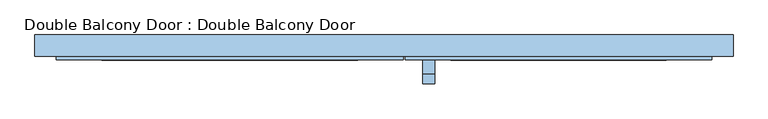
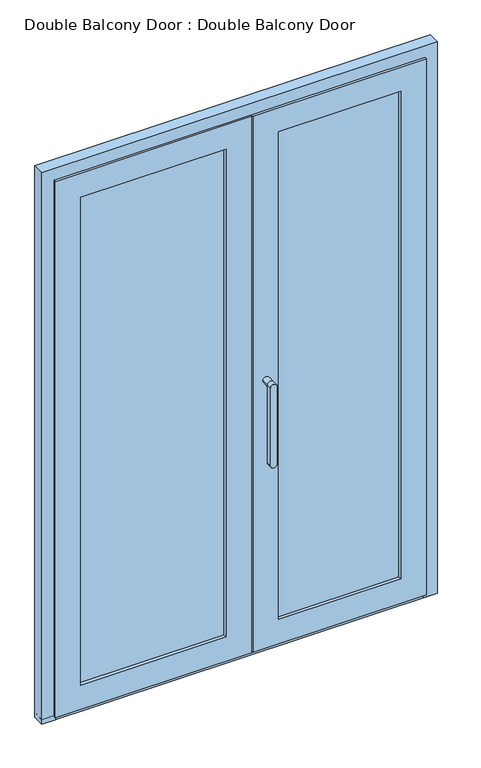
"""IFC4 building model written with IfcOpenShell, lengths in millimetres: window geometry, Double Balcony Door : Double Balcony Door."""

from ifc_helpers import new_model, si_unit, point, frame, frame_2d, origin, place, context, project, spatial, polyline, circle_curve, ellipse_curve, trimmed, segment, composite_curve, outline, extrude, faceted_brep, source, transform, mapped, element, save
from ifc_brep_helpers import plane_surface, cylinder_surface, advanced_brep


def double_balcony_door_double_balcony_door_f30f3416(model_context):
    return source(origin(), model_context, "Body", "SolidModel", [
        extrude(outline(polyline([(-613.6965665, 12.499206), (-40.3034335, 12.499206), (-40.3034335, -11.5007646), (-613.6965665, -11.5007646), (-613.6965665, 12.499206)])), frame((0.0, 0.0, 105.3034335), z_axis=(0.0, 0.0, 1.0), x_axis=(1.0, 0.0, 0.0)), (0.0, 0.0, 1.0), 1958.3931331),
        extrude(outline(polyline([(51.5004821, 19.9999722), (51.5004821, -16.9999382), (22.9999853, -16.9999382), (22.9999853, 19.9999722), (12.5002691, 19.9999722), (12.5002691, 28.0000008), (73.5004905, 28.0000008), (73.5004905, 19.9999722), (51.5004821, 19.9999722)])), frame((0.0, 0.0, 57.5000095), z_axis=(0.0, 0.0, 1.0), x_axis=(1.0, 0.0, 0.0)), (0.0, 0.0, 1.0), 2053.9999809),
        advanced_brep(
        [(-598.7001046, 22.4999732, 2048.7001046), (-604.2001016, 27.9999669, 2054.2001016), (-49.7998984, 27.9999669, 2054.2001016), (-55.2998954, 22.4999732, 2048.7001046), (-49.7998984, 27.9999669, 114.7998984), (-55.2998954, 22.4999732, 120.2998954), (7.4993978, 27.9999669, 57.5006022), (-661.4993978, 27.9999669, 57.5006022), (-661.4993978, 27.9999669, 2111.4993978), (7.4993978, 27.9999669, 2111.4993978), (-604.2001016, 27.9999669, 114.7998984), (-598.7001046, 22.4999732, 120.2998954), (-55.2999014, 12.499206, 2048.7000986), (-55.2999014, 12.499206, 120.2999014), (-598.7000986, 12.499206, 2048.7000986), (-598.7000986, 12.499206, 120.2999014), (-40.3034335, 12.499206, 2063.6965665), (-613.6965665, 12.499206, 2063.6965665), (-613.6965665, 12.499206, 105.3034335), (-40.3034335, 12.499206, 105.3034335), (-40.3034335, -11.5007646, 2063.6965665), (-40.3034335, -11.5007646, 105.3034335), (-613.6965665, -11.5007646, 105.3034335), (-613.6965665, -11.5007646, 2063.6965665), (-55.2999262, -11.5007646, 2048.7000738), (-598.7000738, -11.5007646, 2048.7000738), (-598.7000738, -11.5007646, 120.2999262), (-55.2999262, -11.5007646, 120.2999262), (-598.7000738, -24.9999436, 2048.7000738), (-55.2999262, -24.9999436, 2048.7000738), (-55.2999262, -24.9999436, 120.2999262), (-598.7000738, -24.9999436, 120.2999262), (40.4999905, -24.9999436, 2144.4999905), (-694.4999905, -24.9999436, 2144.4999905), (-694.4999905, -24.9999436, 24.5000095), (40.4999905, -24.9999436, 24.5000095), (40.4999905, -17.0, 2144.4999905), (40.4999905, -17.0, 24.5000095), (-694.4999905, -17.0, 24.5000095), (-694.4999905, -17.0, 2144.4999905), (22.9999853, -17.0, 2126.9999853), (-676.9999853, -17.0, 2126.9999853), (-676.9999853, -17.0, 42.0000147), (22.9999853, -17.0, 42.0000147), (22.9999853, 20.0000618, 2126.9999853), (22.9999853, 20.0000618, 42.0000147), (-676.9999853, 20.0000618, 42.0000147), (-676.9999853, 20.0000618, 2126.9999853), (7.4993978, 20.0000618, 2111.4993978), (-661.4993978, 20.0000618, 2111.4993978), (-661.4993978, 20.0000618, 57.5006022), (7.4993978, 20.0000618, 57.5006022)],
        [
            (0, 1, ellipse_curve(frame((-604.2001016, 22.4999699, 2054.2001016), z_axis=(0.7071067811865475, 0.0, 0.7071067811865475), x_axis=(-0.7071067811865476, 0.0, 0.7071067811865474)), 7.7781703, 5.499997)),
            (1, 2),
            (2, 3, ellipse_curve(frame((-49.7998984, 22.4999699, 2054.2001016), z_axis=(-0.7071067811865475, 0.0, 0.7071067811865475), x_axis=(-0.7071067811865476, 0.0, -0.7071067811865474)), 7.7781703, 5.499997)),
            (3, 0),
            (2, 4),
            (4, 5, ellipse_curve(frame((-49.7998984, 22.4999699, 114.7998984), z_axis=(0.7071067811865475, 0.0, 0.7071067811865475), x_axis=(-0.7071067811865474, 0.0, 0.7071067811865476)), 7.7781703, 5.499997)),
            (5, 3),
            (6, 7),
            (7, 8),
            (8, 9),
            (9, 6),
            (1, 10),
            (10, 4),
            (10, 11, ellipse_curve(frame((-604.2001016, 22.4999699, 114.7998984), z_axis=(0.7071067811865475, 0.0, -0.7071067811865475), x_axis=(0.7071067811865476, 0.0, 0.7071067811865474)), 7.7781703, 5.499997)),
            (11, 5),
            (12, 3),
            (5, 13),
            (13, 12),
            (14, 0),
            (12, 14),
            (11, 15),
            (15, 13),
            (16, 17),
            (17, 18),
            (18, 19),
            (19, 16),
            (15, 14),
            (20, 16),
            (19, 21),
            (21, 20),
            (18, 22),
            (22, 21),
            (22, 23),
            (23, 20),
            (24, 25),
            (25, 26),
            (26, 27),
            (27, 24),
            (28, 25),
            (24, 29),
            (29, 28),
            (27, 30),
            (30, 29),
            (26, 31),
            (31, 30),
            (32, 33),
            (33, 34),
            (34, 35),
            (35, 32),
            (31, 28),
            (36, 32),
            (35, 37),
            (37, 36),
            (34, 38),
            (38, 37),
            (38, 39),
            (39, 36),
            (40, 41),
            (41, 42),
            (42, 43),
            (43, 40),
            (44, 40),
            (43, 45),
            (45, 44),
            (42, 46),
            (46, 45),
            (46, 47),
            (47, 44),
            (48, 49),
            (49, 50),
            (50, 51),
            (51, 48),
            (9, 48),
            (51, 6),
            (50, 7),
            (0, 11),
            (17, 23),
            (33, 39),
            (41, 47),
            (49, 8),
        ],
        [
            cylinder_surface(frame((-740.0, 22.4999699, 2054.2001016), z_axis=(-1.0000000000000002, 0.0, 0.0), x_axis=(0.0, 5.945878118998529e-07, -0.9999999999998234)), 5.499997),
            cylinder_surface(frame((-49.7998984, 22.4999699, 2190.0), z_axis=(0.0, 0.0, 1.0000000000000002), x_axis=(-0.9999999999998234, 5.945878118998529e-07, 0.0)), 5.499997),
            plane_surface(frame((-661.4993978, 27.9999669, 2111.4993978), z_axis=(0.0, 1.0, 0.0), x_axis=(1.0, 0.0, 0.0))),
            cylinder_surface(frame((86.0, 22.4999699, 114.7998984), z_axis=(1.0000000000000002, 0.0, 0.0), x_axis=(0.0, 5.945878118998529e-07, 0.9999999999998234)), 5.499997),
            plane_surface(frame((-55.2999014, 22.4999732, 2048.7000986), z_axis=(-1.0, 0.0, 0.0), x_axis=(0.0, 0.0, -1.0))),
            plane_surface(frame((-598.7000986, 22.4999732, 2048.7000986), z_axis=(0.0, 0.0, -1.0), x_axis=(1.0, 0.0, 0.0))),
            plane_surface(frame((-55.2999014, 22.4999732, 120.2999014), z_axis=(0.0, 0.0, 1.0), x_axis=(-1.0, 0.0, 0.0))),
            plane_surface(frame((-598.7000986, 12.499206, 2048.7000986), z_axis=(0.0, -1.0, 0.0), x_axis=(1.0, 0.0, 0.0))),
            plane_surface(frame((-40.3034335, 12.499206, 2063.6965665), z_axis=(-1.0, 0.0, 0.0), x_axis=(0.0, 0.0, -1.0))),
            plane_surface(frame((-40.3034335, 12.499206, 105.3034335), z_axis=(0.0, 0.0, 1.0), x_axis=(-1.0, 0.0, 0.0))),
            plane_surface(frame((-613.6965665, -11.5007646, 2063.6965665), z_axis=(0.0, 1.0, 0.0), x_axis=(1.0, 0.0, 0.0))),
            plane_surface(frame((-598.7000738, -11.5007646, 2048.7000738), z_axis=(0.0, 0.0, -1.0), x_axis=(1.0, 0.0, 0.0))),
            plane_surface(frame((-55.2999262, -11.5007646, 2048.7000738), z_axis=(-1.0, 0.0, 0.0), x_axis=(0.0, 0.0, -1.0))),
            plane_surface(frame((-55.2999262, -11.5007646, 120.2999262), z_axis=(0.0, 0.0, 1.0), x_axis=(-1.0, 0.0, 0.0))),
            plane_surface(frame((-598.7000738, -24.9999436, 2048.7000738), z_axis=(0.0, -1.0, 0.0), x_axis=(1.0, 0.0, 0.0))),
            plane_surface(frame((40.4999905, -24.9999436, 2144.4999905), z_axis=(1.0, 0.0, 0.0), x_axis=(0.0, 0.0, -1.0))),
            plane_surface(frame((40.4999905, -24.9999436, 24.5000095), z_axis=(0.0, 0.0, -1.0), x_axis=(-1.0, 0.0, 0.0))),
            plane_surface(frame((-694.4999905, -17.0, 2144.4999905), z_axis=(0.0, 1.0, 0.0), x_axis=(1.0, 0.0, 0.0))),
            plane_surface(frame((22.9999853, -17.0, 2126.9999853), z_axis=(1.0, 0.0, 0.0), x_axis=(0.0, 0.0, -1.0))),
            plane_surface(frame((22.9999853, -17.0, 42.0000147), z_axis=(0.0, 0.0, -1.0), x_axis=(-1.0, 0.0, 0.0))),
            plane_surface(frame((-676.9999853, 20.0000618, 2126.9999853), z_axis=(0.0, 1.0, 0.0), x_axis=(1.0, 0.0, 0.0))),
            plane_surface(frame((7.4993978, 20.0000618, 2111.4993978), z_axis=(1.0, 0.0, 0.0), x_axis=(0.0, 0.0, -1.0))),
            plane_surface(frame((7.4993978, 20.0000618, 57.5006022), z_axis=(0.0, 0.0, -1.0), x_axis=(-1.0, 0.0, 0.0))),
            cylinder_surface(frame((-604.2001016, 22.4999699, -21.0), z_axis=(0.0, 0.0, -1.0000000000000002), x_axis=(0.9999999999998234, 5.945878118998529e-07, 0.0)), 5.499997),
            plane_surface(frame((-598.7000986, 22.4999732, 120.2999014), z_axis=(1.0, 0.0, 0.0), x_axis=(0.0, 0.0, 1.0))),
            plane_surface(frame((-613.6965665, 12.499206, 105.3034335), z_axis=(1.0, 0.0, 0.0), x_axis=(0.0, 0.0, 1.0))),
            plane_surface(frame((-598.7000738, -11.5007646, 120.2999262), z_axis=(1.0, 0.0, 0.0), x_axis=(0.0, 0.0, 1.0))),
            plane_surface(frame((-694.4999905, -24.9999436, 24.5000095), z_axis=(-1.0, 0.0, 0.0), x_axis=(0.0, 0.0, 1.0))),
            plane_surface(frame((-676.9999853, -17.0, 42.0000147), z_axis=(-1.0, 0.0, 0.0), x_axis=(0.0, 0.0, 1.0))),
            plane_surface(frame((-661.4993978, 20.0000618, 57.5006022), z_axis=(-1.0, 0.0, 0.0), x_axis=(0.0, 0.0, 1.0))),
            plane_surface(frame((-613.6965665, 12.499206, 2063.6965665), z_axis=(0.0, 0.0, -1.0), x_axis=(1.0, 0.0, 0.0))),
            plane_surface(frame((-694.4999905, -24.9999436, 2144.4999905), z_axis=(0.0, 0.0, 1.0), x_axis=(1.0, 0.0, 0.0))),
            plane_surface(frame((-676.9999853, -17.0, 2126.9999853), z_axis=(0.0, 0.0, 1.0), x_axis=(1.0, 0.0, 0.0))),
            plane_surface(frame((-661.4993978, 20.0000618, 2111.4993978), z_axis=(0.0, 0.0, 1.0), x_axis=(1.0, 0.0, 0.0))),
        ],
        [
            (0, [[1, 2, 3, 4]]),
            (1, [[-3, 5, 6, 7]]),
            (2, [[8, 9, 10, 11], [-2, 12, 13, -5]]),
            (3, [[-6, -13, 14, 15]]),
            (4, [[16, -7, 17, 18]]),
            (5, [[19, -4, -16, 20]]),
            (6, [[-17, -15, 21, 22]]),
            (7, [[23, 24, 25, 26], [-22, 27, -20, -18]]),
            (8, [[28, -26, 29, 30]]),
            (9, [[-29, -25, 31, 32]]),
            (10, [[-32, 33, 34, -30], [35, 36, 37, 38]]),
            (11, [[39, -35, 40, 41]]),
            (12, [[-40, -38, 42, 43]]),
            (13, [[-42, -37, 44, 45]]),
            (14, [[46, 47, 48, 49], [-45, 50, -41, -43]]),
            (15, [[51, -49, 52, 53]]),
            (16, [[-52, -48, 54, 55]]),
            (17, [[-55, 56, 57, -53], [58, 59, 60, 61]]),
            (18, [[62, -61, 63, 64]]),
            (19, [[-63, -60, 65, 66]]),
            (20, [[-66, 67, 68, -64], [69, 70, 71, 72]]),
            (21, [[73, -72, 74, -11]]),
            (22, [[-74, -71, 75, -8]]),
            (23, [[-14, -12, -1, 76]]),
            (24, [[-21, -76, -19, -27]]),
            (25, [[-31, -24, 77, -33]]),
            (26, [[-44, -36, -39, -50]]),
            (27, [[-54, -47, 78, -56]]),
            (28, [[-65, -59, 79, -67]]),
            (29, [[-75, -70, 80, -9]]),
            (30, [[-77, -23, -28, -34]]),
            (31, [[-78, -46, -51, -57]]),
            (32, [[-79, -58, -62, -68]]),
            (33, [[-80, -69, -73, -10]]),
        ],
    ),
        advanced_brep(
        [(82.5000095, -74.9999436, 1084.5), (82.5000095, -74.9999436, 779.0), (107.5000095, -74.9999436, 779.0), (107.5000095, -74.9999436, 1084.5), (107.5000095, -54.9999436, 1084.5), (107.5000095, -54.9999436, 779.0), (82.5000095, -54.9999436, 779.0), (82.5000095, -54.9999436, 1084.5), (82.5000095, -24.9999436, 1084.5), (107.5000095, -24.9999436, 1084.5)],
        [
            (0, 1),
            (1, 2, circle_curve(frame((95.0000095, -74.9999436, 779.0), z_axis=(0.0, -1.0, 0.0), x_axis=(1.0, 0.0, 0.0)), 12.5)),
            (2, 3),
            (3, 0, circle_curve(frame((95.0000095, -74.9999436, 1084.5), z_axis=(0.0, -1.0, 0.0), x_axis=(1.0, 0.0, 0.0)), 12.5)),
            (4, 5),
            (5, 6, circle_curve(frame((95.0000095, -54.9999436, 779.0), z_axis=(0.0, 1.0, 0.0), x_axis=(1.0, 0.0, 0.0)), 12.5)),
            (6, 7),
            (7, 4, circle_curve(frame((95.0000095, -54.9999436, 1084.5), z_axis=(0.0, -1.0, 0.0), x_axis=(1.0, 0.0, 0.0)), 12.5)),
            (0, 7),
            (6, 1),
            (5, 2),
            (4, 3),
            (4, 7, circle_curve(frame((95.0000095, -54.9999436, 1084.5), z_axis=(0.0, -1.0, 0.0), x_axis=(1.0, 0.0, 0.0)), 12.5)),
            (8, 9, circle_curve(frame((95.0000095, -24.9999436, 1084.5), z_axis=(0.0, 1.0, 0.0), x_axis=(1.0, 0.0, 0.0)), 12.5)),
            (9, 8, circle_curve(frame((95.0000095, -24.9999436, 1084.5), z_axis=(0.0, 1.0, 0.0), x_axis=(1.0, 0.0, 0.0)), 12.5)),
            (9, 4),
            (7, 8),
        ],
        [
            plane_surface(frame((82.5000095, -74.9999436, 1084.5), z_axis=(0.0, -1.0, 0.0), x_axis=(0.0, 0.0, -1.0))),
            plane_surface(frame((82.5000095, -54.9999436, 1084.5), z_axis=(0.0, 1.0, 0.0), x_axis=(0.0, 0.0, 1.0))),
            plane_surface(frame((82.5000095, -74.9999436, 1084.5), z_axis=(-1.0, 0.0, 0.0), x_axis=(0.0, 1.0, 0.0))),
            cylinder_surface(frame((95.0000095, -54.9999436, 779.0), z_axis=(0.0, -1.0, 0.0), x_axis=(1.0, 0.0, 0.0)), 12.5),
            plane_surface(frame((107.5000095, -74.9999436, 779.0), z_axis=(1.0, 0.0, 0.0), x_axis=(0.0, 1.0, 0.0))),
            cylinder_surface(frame((95.0000095, -54.9999436, 1084.5), z_axis=(0.0, -1.0, 0.0), x_axis=(1.0, 0.0, 0.0)), 12.5),
            plane_surface(frame((107.5000095, -24.9999436, 1084.5), z_axis=(0.0, 1.0, 0.0), x_axis=(0.0, 0.0, -1.0))),
            cylinder_surface(frame((95.0000095, -24.9999436, 1084.5), z_axis=(0.0, -1.0, 0.0), x_axis=(1.0, 0.0, 0.0)), 12.5),
        ],
        [
            (0, [[1, 2, 3, 4]]),
            (1, [[5, 6, 7, 8]]),
            (2, [[-1, 9, -7, 10]]),
            (3, [[-2, -10, -6, 11]]),
            (4, [[-3, -11, -5, 12]]),
            (5, [[-4, -12, 13, -9]]),
            (6, [[14, 15]]),
            (7, [[-15, 16, -8, 17]]),
            (7, [[-14, -17, -13, -16]]),
        ],
    ),
        extrude(outline(polyline([(126.3034335, 12.499206), (613.6965665, 12.499206), (613.6965665, -11.5007646), (126.3034335, -11.5007646), (126.3034335, 12.499206)])), frame((0.0, 0.0, 105.3034335), z_axis=(0.0, 0.0, 1.0), x_axis=(1.0, 0.0, 0.0)), (0.0, 0.0, 1.0), 1958.3931331),
        advanced_brep(
        [(598.7001046, 22.4999732, 2048.7001046), (604.2001016, 27.9999669, 2054.2001016), (604.2001016, 27.9999669, 114.7998984), (598.7001046, 22.4999732, 120.2998954), (661.4993978, 27.9999669, 57.5006022), (78.5006022, 27.9999669, 57.5006022), (78.5006022, 27.9999669, 2111.4993978), (661.4993978, 27.9999669, 2111.4993978), (135.7998984, 27.9999669, 2054.2001016), (135.7998984, 27.9999669, 114.7998984), (141.2998954, 22.4999732, 120.2998954), (598.7000986, 12.499206, 2048.7000986), (598.7000986, 12.499206, 120.2999014), (141.2999014, 12.499206, 120.2999014), (613.6965665, 12.499206, 2063.6965665), (126.3034335, 12.499206, 2063.6965665), (126.3034335, 12.499206, 105.3034335), (613.6965665, 12.499206, 105.3034335), (141.2999014, 12.499206, 2048.7000986), (613.6965665, -11.5007646, 2063.6965665), (613.6965665, -11.5007646, 105.3034335), (126.3034335, -11.5007646, 105.3034335), (126.3034335, -11.5007646, 2063.6965665), (598.7000738, -11.5007646, 2048.7000738), (141.2999262, -11.5007646, 2048.7000738), (141.2999262, -11.5007646, 120.2999262), (598.7000738, -11.5007646, 120.2999262), (598.7000738, -24.9999436, 2048.7000738), (598.7000738, -24.9999436, 120.2999262), (141.2999262, -24.9999436, 120.2999262), (694.4999905, -24.9999436, 2144.4999905), (45.5000095, -24.9999436, 2144.4999905), (45.5000095, -24.9999436, 24.5000095), (694.4999905, -24.9999436, 24.5000095), (141.2999262, -24.9999436, 2048.7000738), (694.4999905, -17.0, 2144.4999905), (694.4999905, -17.0, 24.5000095), (45.5000095, -17.0, 24.5000095), (45.5000095, -17.0, 2144.4999905), (676.9999853, -17.0, 2126.9999853), (63.0000147, -17.0, 2126.9999853), (63.0000147, -17.0, 42.0000147), (676.9999853, -17.0, 42.0000147), (676.9999853, 20.0000618, 2126.9999853), (676.9999853, 20.0000618, 42.0000147), (63.0000147, 20.0000618, 42.0000147), (63.0000147, 20.0000618, 2126.9999853), (661.4993978, 20.0000618, 2111.4993978), (78.5006022, 20.0000618, 2111.4993978), (78.5006022, 20.0000618, 57.5006022), (661.4993978, 20.0000618, 57.5006022), (141.2998954, 22.4999732, 2048.7001046)],
        [
            (0, 1, ellipse_curve(frame((604.2001016, 22.4999699, 2054.2001016), z_axis=(0.7071067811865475, 0.0, -0.7071067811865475), x_axis=(0.7071067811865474, 0.0, 0.7071067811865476)), 7.7781703, 5.499997)),
            (1, 2),
            (2, 3, ellipse_curve(frame((604.2001016, 22.4999699, 114.7998984), z_axis=(0.7071067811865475, 0.0, 0.7071067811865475), x_axis=(-0.7071067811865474, 0.0, 0.7071067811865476)), 7.7781703, 5.499997)),
            (3, 0),
            (4, 5),
            (5, 6),
            (6, 7),
            (7, 4),
            (1, 8),
            (8, 9),
            (9, 2),
            (9, 10, ellipse_curve(frame((135.7998984, 22.4999699, 114.7998984), z_axis=(0.7071067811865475, 0.0, -0.7071067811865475), x_axis=(0.7071067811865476, 0.0, 0.7071067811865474)), 7.7781703, 5.499997)),
            (10, 3),
            (11, 0),
            (3, 12),
            (12, 11),
            (10, 13),
            (13, 12),
            (14, 15),
            (15, 16),
            (16, 17),
            (17, 14),
            (13, 18),
            (18, 11),
            (19, 14),
            (17, 20),
            (20, 19),
            (16, 21),
            (21, 20),
            (21, 22),
            (22, 19),
            (23, 24),
            (24, 25),
            (25, 26),
            (26, 23),
            (27, 23),
            (26, 28),
            (28, 27),
            (25, 29),
            (29, 28),
            (30, 31),
            (31, 32),
            (32, 33),
            (33, 30),
            (29, 34),
            (34, 27),
            (35, 30),
            (33, 36),
            (36, 35),
            (32, 37),
            (37, 36),
            (37, 38),
            (38, 35),
            (39, 40),
            (40, 41),
            (41, 42),
            (42, 39),
            (43, 39),
            (42, 44),
            (44, 43),
            (41, 45),
            (45, 44),
            (45, 46),
            (46, 43),
            (47, 48),
            (48, 49),
            (49, 50),
            (50, 47),
            (7, 47),
            (50, 4),
            (49, 5),
            (8, 51, ellipse_curve(frame((135.7998984, 22.4999699, 2054.2001016), z_axis=(-0.7071067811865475, 0.0, -0.7071067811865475), x_axis=(0.7071067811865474, 0.0, -0.7071067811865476)), 7.7781703, 5.499997)),
            (51, 10),
            (51, 18),
            (15, 22),
            (24, 34),
            (31, 38),
            (40, 46),
            (48, 6),
            (0, 51),
        ],
        [
            cylinder_surface(frame((604.2001016, 22.4999699, 2190.0), z_axis=(0.0, 0.0, 1.0000000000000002), x_axis=(-0.9999999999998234, 5.945878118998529e-07, 0.0)), 5.499997),
            plane_surface(frame((78.5006022, 27.9999669, 2111.4993978), z_axis=(0.0, 1.0, 0.0), x_axis=(1.0, 0.0, 0.0))),
            cylinder_surface(frame((740.0, 22.4999699, 114.7998984), z_axis=(1.0000000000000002, 0.0, 0.0), x_axis=(0.0, 5.945878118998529e-07, 0.9999999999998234)), 5.499997),
            plane_surface(frame((598.7000986, 22.4999732, 2048.7000986), z_axis=(-1.0, 0.0, 0.0), x_axis=(0.0, 0.0, -1.0))),
            plane_surface(frame((598.7000986, 22.4999732, 120.2999014), z_axis=(0.0, 0.0, 1.0), x_axis=(-1.0, 0.0, 0.0))),
            plane_surface(frame((141.2999014, 12.499206, 2048.7000986), z_axis=(0.0, -1.0, 0.0), x_axis=(1.0, 0.0, 0.0))),
            plane_surface(frame((613.6965665, 12.499206, 2063.6965665), z_axis=(-1.0, 0.0, 0.0), x_axis=(0.0, 0.0, -1.0))),
            plane_surface(frame((613.6965665, 12.499206, 105.3034335), z_axis=(0.0, 0.0, 1.0), x_axis=(-1.0, 0.0, 0.0))),
            plane_surface(frame((126.3034335, -11.5007646, 2063.6965665), z_axis=(0.0, 1.0, 0.0), x_axis=(1.0, 0.0, 0.0))),
            plane_surface(frame((598.7000738, -11.5007646, 2048.7000738), z_axis=(-1.0, 0.0, 0.0), x_axis=(0.0, 0.0, -1.0))),
            plane_surface(frame((598.7000738, -11.5007646, 120.2999262), z_axis=(0.0, 0.0, 1.0), x_axis=(-1.0, 0.0, 0.0))),
            plane_surface(frame((141.2999262, -24.9999436, 2048.7000738), z_axis=(0.0, -1.0, 0.0), x_axis=(1.0, 0.0, 0.0))),
            plane_surface(frame((694.4999905, -24.9999436, 2144.4999905), z_axis=(1.0, 0.0, 0.0), x_axis=(0.0, 0.0, -1.0))),
            plane_surface(frame((694.4999905, -24.9999436, 24.5000095), z_axis=(0.0, 0.0, -1.0), x_axis=(-1.0, 0.0, 0.0))),
            plane_surface(frame((45.5000095, -17.0, 2144.4999905), z_axis=(0.0, 1.0, 0.0), x_axis=(1.0, 0.0, 0.0))),
            plane_surface(frame((676.9999853, -17.0, 2126.9999853), z_axis=(1.0, 0.0, 0.0), x_axis=(0.0, 0.0, -1.0))),
            plane_surface(frame((676.9999853, -17.0, 42.0000147), z_axis=(0.0, 0.0, -1.0), x_axis=(-1.0, 0.0, 0.0))),
            plane_surface(frame((63.0000147, 20.0000618, 2126.9999853), z_axis=(0.0, 1.0, 0.0), x_axis=(1.0, 0.0, 0.0))),
            plane_surface(frame((661.4993978, 20.0000618, 2111.4993978), z_axis=(1.0, 0.0, 0.0), x_axis=(0.0, 0.0, -1.0))),
            plane_surface(frame((661.4993978, 20.0000618, 57.5006022), z_axis=(0.0, 0.0, -1.0), x_axis=(-1.0, 0.0, 0.0))),
            cylinder_surface(frame((135.7998984, 22.4999699, -21.0), z_axis=(0.0, 0.0, -1.0000000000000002), x_axis=(0.9999999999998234, 5.945878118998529e-07, 0.0)), 5.499997),
            plane_surface(frame((141.2999014, 22.4999732, 120.2999014), z_axis=(1.0, 0.0, 0.0), x_axis=(0.0, 0.0, 1.0))),
            plane_surface(frame((126.3034335, 12.499206, 105.3034335), z_axis=(1.0, 0.0, 0.0), x_axis=(0.0, 0.0, 1.0))),
            plane_surface(frame((141.2999262, -11.5007646, 120.2999262), z_axis=(1.0, 0.0, 0.0), x_axis=(0.0, 0.0, 1.0))),
            plane_surface(frame((45.5000095, -24.9999436, 24.5000095), z_axis=(-1.0, 0.0, 0.0), x_axis=(0.0, 0.0, 1.0))),
            plane_surface(frame((63.0000147, -17.0, 42.0000147), z_axis=(-1.0, 0.0, 0.0), x_axis=(0.0, 0.0, 1.0))),
            plane_surface(frame((78.5006022, 20.0000618, 57.5006022), z_axis=(-1.0, 0.0, 0.0), x_axis=(0.0, 0.0, 1.0))),
            cylinder_surface(frame((0.0, 22.4999699, 2054.2001016), z_axis=(-1.0000000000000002, 0.0, 0.0), x_axis=(0.0, 5.945878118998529e-07, -0.9999999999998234)), 5.499997),
            plane_surface(frame((141.2999014, 22.4999732, 2048.7000986), z_axis=(0.0, 0.0, -1.0), x_axis=(1.0, 0.0, 0.0))),
            plane_surface(frame((126.3034335, 12.499206, 2063.6965665), z_axis=(0.0, 0.0, -1.0), x_axis=(1.0, 0.0, 0.0))),
            plane_surface(frame((141.2999262, -11.5007646, 2048.7000738), z_axis=(0.0, 0.0, -1.0), x_axis=(1.0, 0.0, 0.0))),
            plane_surface(frame((45.5000095, -24.9999436, 2144.4999905), z_axis=(0.0, 0.0, 1.0), x_axis=(1.0, 0.0, 0.0))),
            plane_surface(frame((63.0000147, -17.0, 2126.9999853), z_axis=(0.0, 0.0, 1.0), x_axis=(1.0, 0.0, 0.0))),
            plane_surface(frame((78.5006022, 20.0000618, 2111.4993978), z_axis=(0.0, 0.0, 1.0), x_axis=(1.0, 0.0, 0.0))),
        ],
        [
            (0, [[1, 2, 3, 4]]),
            (1, [[5, 6, 7, 8], [9, 10, 11, -2]]),
            (2, [[-3, -11, 12, 13]]),
            (3, [[14, -4, 15, 16]]),
            (4, [[-15, -13, 17, 18]]),
            (5, [[19, 20, 21, 22], [-18, 23, 24, -16]]),
            (6, [[25, -22, 26, 27]]),
            (7, [[-26, -21, 28, 29]]),
            (8, [[-29, 30, 31, -27], [32, 33, 34, 35]]),
            (9, [[36, -35, 37, 38]]),
            (10, [[-37, -34, 39, 40]]),
            (11, [[41, 42, 43, 44], [-40, 45, 46, -38]]),
            (12, [[47, -44, 48, 49]]),
            (13, [[-48, -43, 50, 51]]),
            (14, [[-51, 52, 53, -49], [54, 55, 56, 57]]),
            (15, [[58, -57, 59, 60]]),
            (16, [[-59, -56, 61, 62]]),
            (17, [[-62, 63, 64, -60], [65, 66, 67, 68]]),
            (18, [[69, -68, 70, -8]]),
            (19, [[-70, -67, 71, -5]]),
            (20, [[-12, -10, 72, 73]]),
            (21, [[-17, -73, 74, -23]]),
            (22, [[-28, -20, 75, -30]]),
            (23, [[-39, -33, 76, -45]]),
            (24, [[-50, -42, 77, -52]]),
            (25, [[-61, -55, 78, -63]]),
            (26, [[-71, -66, 79, -6]]),
            (27, [[-72, -9, -1, 80]]),
            (28, [[-74, -80, -14, -24]]),
            (29, [[-75, -19, -25, -31]]),
            (30, [[-76, -32, -36, -46]]),
            (31, [[-77, -41, -47, -53]]),
            (32, [[-78, -54, -58, -64]]),
            (33, [[-79, -65, -69, -7]]),
        ],
    ),
        faceted_brep([(-740.0, 28.0, 10.0), (-666.5, 28.0, 10.0), (-666.5, 20.0, 10.0), (-688.5, 20.0, 10.0), (-688.5, -17.0, 10.0), (-740.0, -17.0, 10.0), (-740.0, 28.0, 2190.0), (740.0, 28.0, 2190.0), (740.0, 28.0, 10.0), (666.5, 28.0, 10.0), (666.5, 28.0, 2116.5), (-666.5, 28.0, 2116.5), (-666.5, 20.0, 2116.5), (666.5, 20.0, 2116.5), (666.5, 20.0, 10.0), (688.5, 20.0, 10.0), (688.5, 20.0, 2138.5), (-688.5, 20.0, 2138.5), (-688.5, -17.0, 2138.5), (688.5, -17.0, 2138.5), (688.5, -17.0, 10.0), (740.0, -17.0, 10.0), (740.0, -17.0, 2190.0), (-740.0, -17.0, 2190.0)], [[[0, 1, 2, 3, 4, 5]], [[0, 6, 7, 8, 9, 10, 11, 1]], [[2, 1, 11, 12]], [[3, 2, 12, 13, 14, 15, 16, 17]], [[4, 3, 17, 18]], [[5, 4, 18, 19, 20, 21, 22, 23]], [[0, 5, 23, 6]], [[9, 8, 21, 20, 15, 14]], [[7, 22, 21, 8]], [[19, 16, 15, 20]], [[13, 10, 9, 14]], [[12, 11, 10, 13]], [[18, 17, 16, 19]], [[6, 23, 22, 7]]]),
        extrude(outline(composite_curve([segment(polyline([(-17.0, 10.0), (-17.0, 28.4), (13.2871285, 28.4), (15.4650456, 30.5779171)]), True, "CONTINUOUS"), segment(trimmed(circle_curve(frame_2d((16.030731, 30.0122317)), 0.8), [point((15.4650456, 30.5779171))], [point((16.481505, 30.6731423))], False, "CARTESIAN"), True, "CONTINUOUS"), segment(polyline([(16.481505, 30.6731423), (23.0, 26.2272044), (23.0, 10.0), (-17.0, 10.0)]), True, "CONTINUOUS")], self_intersect=False)), frame((-740.0, 0.0, 0.0), z_axis=(1.0, 0.0, 0.0), x_axis=(0.0, 1.0, 0.0)), (0.0, 0.0, 1.0), 1480.0),
    ])


if __name__ == "__main__":
    model = new_model("IFC4")
    model_context = context("Model", 3, world=origin())
    ifc_project = project(units=[si_unit("LENGTHUNIT", "METRE", prefix="MILLI")], contexts=[model_context])
    site = spatial("IfcSite", under=ifc_project)
    building = spatial("IfcBuilding", under=site)
    placement = place(None, origin())
    double_balcony_door_double_balcony_door_shape = double_balcony_door_double_balcony_door_f30f3416(model_context)
    element("IfcWindow", 1, ObjectType="Double Balcony Door : Double Balcony Door", at=placement, inside=building, context=model_context, shape_type="MappedRepresentation", body=[
        mapped(double_balcony_door_double_balcony_door_shape, transform((0.0, 0.0, 0.0), x_axis=(1.0, 0.0, 0.0), y_axis=(0.0, 1.0, 0.0), z_axis=(0.0, 0.0, 1.0))),
    ])
    save(model, "model.ifc")
